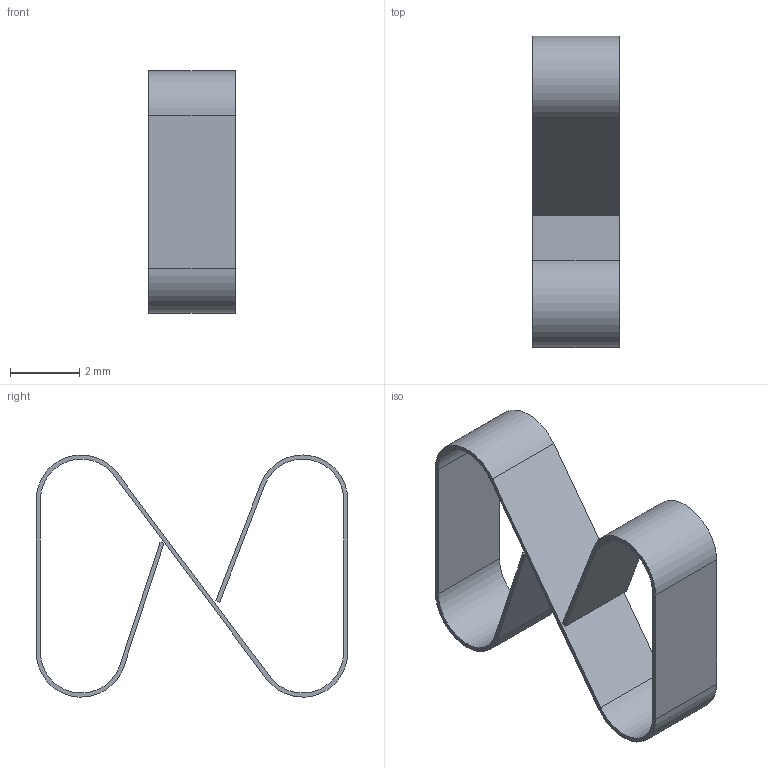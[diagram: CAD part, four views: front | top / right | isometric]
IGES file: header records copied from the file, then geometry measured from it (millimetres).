
Start section:  PTC IGES file: 8G2570090B.igs
Global section: file name: 8G2570090B.igs; native system: Creo Parametric by PTC Inc.; preprocessor: 2015200; author: jairo; organization: Unknown; date: 20180327.104017; units: millimetre
Bounding box: 2.5 x 9 x 7 mm (x, y, z)
Surface area: 192.7 mm2 (no closed solid volume)
Topology: 0 solids, 0 shells, 22 faces, 120 edges, 120 vertices
Faces by surface type: bspline 14, revolution 8
